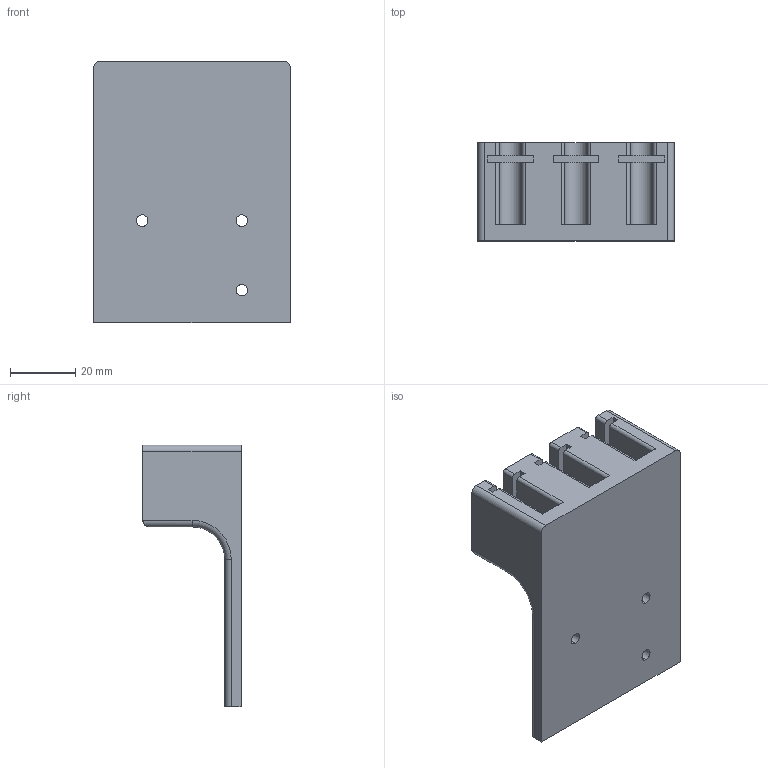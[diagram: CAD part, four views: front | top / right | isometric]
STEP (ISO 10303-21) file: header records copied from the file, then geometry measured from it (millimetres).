
FILE_DESCRIPTION (( 'STEP AP203' ), '1' );
FILE_NAME ('CP45 nozzle rack -left.STEP', '2025-01-22T10:27:21', ( '' ), ( '' ), 'SwSTEP 2.0', 'SolidWorks 2021', '' );
FILE_SCHEMA (( 'CONFIG_CONTROL_DESIGN' ));
Length unit declared in the file: millimetre
Products named in the file (1): CP45 nozzle  rack -left
Bounding box: 60 x 30 x 80 mm (x, y, z)
Volume: 52525.1 mm3; surface area: 18299.7 mm2
Topology: 1 solids, 1 shells, 81 faces, 222 edges, 146 vertices
Faces by surface type: plane 41, cylinder 37, torus 2, bspline 1
Entity records: 2759 total; most frequent: CARTESIAN_POINT 550, DIRECTION 454, ORIENTED_EDGE 444, EDGE_CURVE 222, AXIS2_PLACEMENT_3D 155, VERTEX_POINT 146, LINE 144, VECTOR 144
